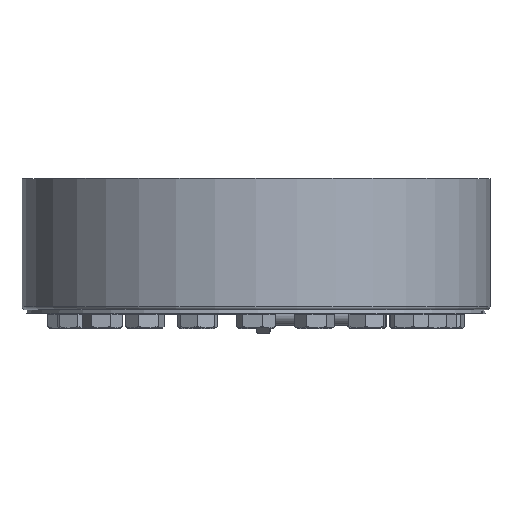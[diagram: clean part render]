
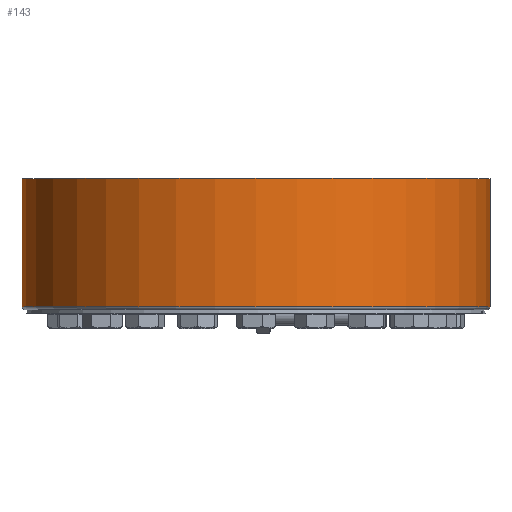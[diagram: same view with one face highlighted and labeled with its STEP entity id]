
A CAD part, top view. The second image highlights one B-rep face of the part: STEP entity #143.
In plain terms, the highlighted cylindrical face has radius 242.5 mm (diameter 485 mm), a full revolution.
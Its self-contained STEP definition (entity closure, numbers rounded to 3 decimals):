
#143 = ADVANCED_FACE( '', ( #351, #352 ), #353, .T. );
#351 = FACE_OUTER_BOUND( '', #574, .T. );
#352 = FACE_OUTER_BOUND( '', #575, .T. );
#353 = CYLINDRICAL_SURFACE( '', #576, 242.5 );
#574 = EDGE_LOOP( '', ( #951 ) );
#575 = EDGE_LOOP( '', ( #952 ) );
#576 = AXIS2_PLACEMENT_3D( '', #953, #954, #955 );
#951 = ORIENTED_EDGE( '', *, *, #1021, .T. );
#952 = ORIENTED_EDGE( '', *, *, #1070, .T. );
#953 = CARTESIAN_POINT( '', ( 0., -60., 0. ) );
#954 = DIRECTION( '', ( 0., 1., 0. ) );
#955 = DIRECTION( '', ( 0., 0., -1. ) );
#1021 = EDGE_CURVE( '', #1189, #1189, #1190, .F. );
#1070 = EDGE_CURVE( '', #1274, #1274, #1275, .T. );
#1189 = VERTEX_POINT( '', #1534 );
#1190 = CIRCLE( '', #1535, 242.5 );
#1274 = VERTEX_POINT( '', #1643 );
#1275 = CIRCLE( '', #1644, 242.5 );
#1534 = CARTESIAN_POINT( '', ( 0., 7., -242.5 ) );
#1535 = AXIS2_PLACEMENT_3D( '', #1795, #1796, #1797 );
#1643 = CARTESIAN_POINT( '', ( 0., 140., -242.5 ) );
#1644 = AXIS2_PLACEMENT_3D( '', #1879, #1880, #1881 );
#1795 = CARTESIAN_POINT( '', ( 0., 7., 0. ) );
#1796 = DIRECTION( '', ( 0., -1., 0. ) );
#1797 = DIRECTION( '', ( 0., 0., -1. ) );
#1879 = CARTESIAN_POINT( '', ( 0., 140., 0. ) );
#1880 = DIRECTION( '', ( 0., -1., 0. ) );
#1881 = DIRECTION( '', ( 0., 0., -1. ) );
